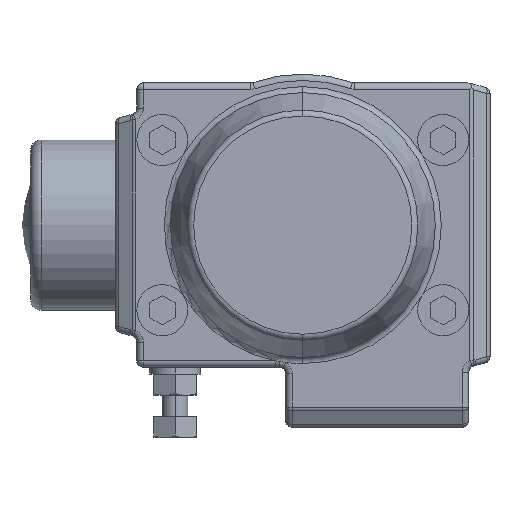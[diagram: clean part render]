
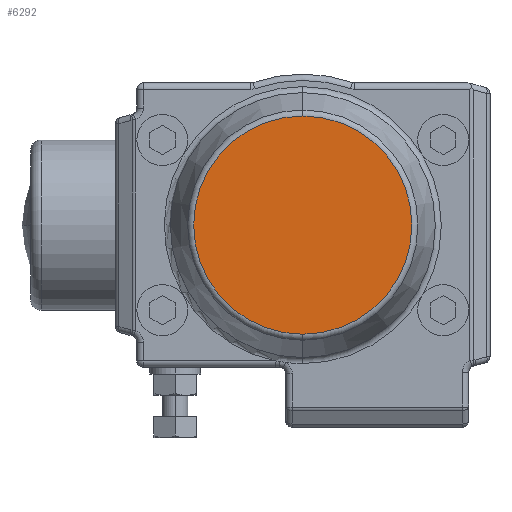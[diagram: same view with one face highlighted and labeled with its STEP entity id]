
A CAD part, left-side view. The second image highlights one B-rep face of the part: STEP entity #6292.
In plain terms, the highlighted planar face has unit normal (-1, 0, 0).
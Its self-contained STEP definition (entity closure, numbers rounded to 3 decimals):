
#203 = ORIENTED_EDGE ( 'NONE', *, *, #8939, .T. ) ;
#923 = EDGE_CURVE ( 'NONE', #10560, #7578, #4270, .T. ) ;
#2410 = DIRECTION ( 'NONE',  ( 0., 0., -1. ) ) ;
#4177 = DIRECTION ( 'NONE',  ( -1., 0., 0. ) ) ;
#4270 = CIRCLE ( 'NONE', #11469, 25.645 ) ;
#4539 = CIRCLE ( 'NONE', #5416, 25.645 ) ;
#5101 = CARTESIAN_POINT ( 'NONE',  ( -82.5, 0., -25.645 ) ) ;
#5416 = AXIS2_PLACEMENT_3D ( 'NONE', #13276, #4177, #5672 ) ;
#5672 = DIRECTION ( 'NONE',  ( 0., 0., 1. ) ) ;
#6217 = CARTESIAN_POINT ( 'NONE',  ( -82.5, 0., 0. ) ) ;
#6292 = ADVANCED_FACE ( 'NONE', ( #16157 ), #15361, .T. ) ;
#6701 = CARTESIAN_POINT ( 'NONE',  ( -82.5, 0., 0. ) ) ;
#7321 = AXIS2_PLACEMENT_3D ( 'NONE', #6217, #15483, #2410 ) ;
#7578 = VERTEX_POINT ( 'NONE', #5101 ) ;
#8939 = EDGE_CURVE ( 'NONE', #7578, #10560, #4539, .T. ) ;
#10560 = VERTEX_POINT ( 'NONE', #15720 ) ;
#10766 = DIRECTION ( 'NONE',  ( -1., 0., 0. ) ) ;
#11469 = AXIS2_PLACEMENT_3D ( 'NONE', #6701, #10766, #15995 ) ;
#13276 = CARTESIAN_POINT ( 'NONE',  ( -82.5, 0., 0. ) ) ;
#15361 = PLANE ( 'NONE',  #7321 ) ;
#15483 = DIRECTION ( 'NONE',  ( -1., 0., 0. ) ) ;
#15720 = CARTESIAN_POINT ( 'NONE',  ( -82.5, 0., 25.645 ) ) ;
#15995 = DIRECTION ( 'NONE',  ( 0., 0., 1. ) ) ;
#16157 = FACE_OUTER_BOUND ( 'NONE', #16334, .T. ) ;
#16334 = EDGE_LOOP ( 'NONE', ( #16385, #203 ) ) ;
#16385 = ORIENTED_EDGE ( 'NONE', *, *, #923, .T. ) ;
